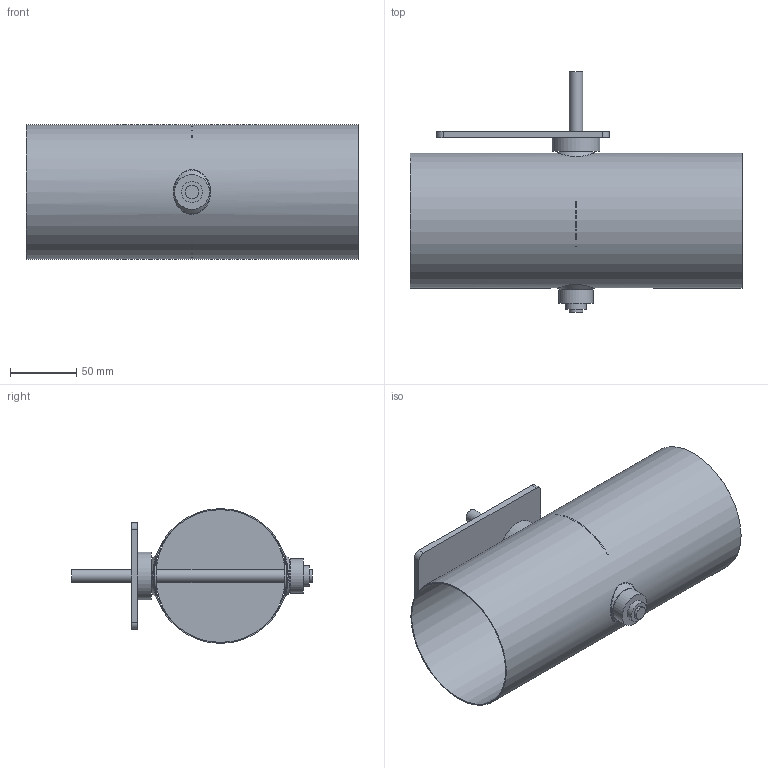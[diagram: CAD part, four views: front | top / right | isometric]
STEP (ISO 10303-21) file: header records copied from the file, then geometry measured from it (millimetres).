
FILE_DESCRIPTION(/* description */ (''),/* implementation_level */ '2;1');
FILE_NAME(/* name */ 'AA120-80B__100_L250_Belimo_Typ_LM.stp',/* time_stamp */ '2017-12-05T13:23:09+01:00',/* author */ (''),/* organization */ (''),/* preprocessor_version */ 'ST-DEVELOPER v11',/* originating_system */ 'SIEMENS UGS NX 6.0',/* authorisation */ '');
FILE_SCHEMA (('CONFIG_CONTROL_DESIGN'));
Length unit declared in the file: millimetre
Products named in the file (1): gars1E3Bhigi
Bounding box: 250 x 181 x 101.6 mm (x, y, z)
Volume: 153931.7 mm3; surface area: 212686.4 mm2
Topology: 8 solids, 8 shells, 65 faces, 139 edges, 96 vertices
Faces by surface type: plane 28, cylinder 25, cone 4, bspline 4, torus 4
Full cylindrical faces by diameter (mm): 4.1 x3, 10 x3, 15 x3, 15.85 x2, 16 x2, 24 x2, 26 x1, 36 x1, 100 x1, 101.6 x1
Entity records: 2228 total; most frequent: CARTESIAN_POINT 904, DIRECTION 264, ORIENTED_EDGE 180, EDGE_LOOP 124, AXIS2_PLACEMENT_3D 120, FACE_BOUND 110, EDGE_CURVE 90, VERTEX_POINT 78
